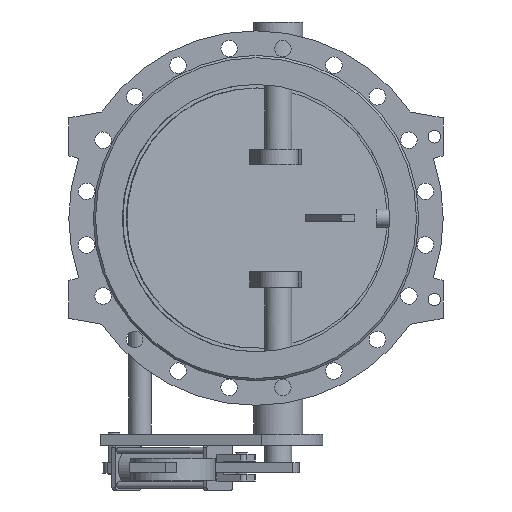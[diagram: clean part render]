
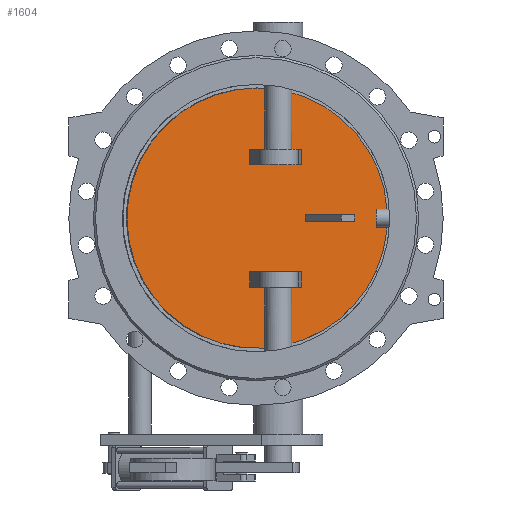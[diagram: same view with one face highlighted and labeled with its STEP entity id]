
A CAD part, front view. The second image highlights one B-rep face of the part: STEP entity #1604.
In plain terms, the highlighted planar face has unit normal (0.131, -0.991, 0).
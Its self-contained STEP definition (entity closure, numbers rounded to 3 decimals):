
#1604=ADVANCED_FACE('',(#3557,#3559,#3561,#3563),#3565,.T.);
#3557=FACE_BOUND('',#3558,.T.);
#3558=EDGE_LOOP('',(#4678));
#3559=FACE_BOUND('',#3560,.T.);
#3560=EDGE_LOOP('',(#4679,#4680,#4681,#4682));
#3561=FACE_BOUND('',#3562,.T.);
#3562=EDGE_LOOP('',(#4683,#4684,#4685,#4686));
#3563=FACE_BOUND('',#3564,.T.);
#3564=EDGE_LOOP('',(#4687,#4688,#4689,#4690));
#3565=PLANE('',#3566);
#3566=AXIS2_PLACEMENT_3D('',#3567,#3568,#3569);
#3567=CARTESIAN_POINT('',(-1.272,9.66,0.));
#3568=DIRECTION('',(0.131,-0.991,0.));
#3569=DIRECTION('',(0.,0.,-1.));
#4678=ORIENTED_EDGE('',*,*,#5177,.T.);
#4679=ORIENTED_EDGE('',*,*,#5194,.F.);
#4680=ORIENTED_EDGE('',*,*,#5195,.F.);
#4681=ORIENTED_EDGE('',*,*,#5196,.F.);
#4682=ORIENTED_EDGE('',*,*,#5197,.F.);
#4683=ORIENTED_EDGE('',*,*,#5198,.F.);
#4684=ORIENTED_EDGE('',*,*,#5199,.F.);
#4685=ORIENTED_EDGE('',*,*,#5200,.F.);
#4686=ORIENTED_EDGE('',*,*,#5201,.F.);
#4687=ORIENTED_EDGE('',*,*,#5202,.F.);
#4688=ORIENTED_EDGE('',*,*,#5203,.F.);
#4689=ORIENTED_EDGE('',*,*,#5204,.F.);
#4690=ORIENTED_EDGE('',*,*,#5205,.F.);
#5177=EDGE_CURVE('',#5917,#5917,#5918,.T.);
#5194=EDGE_CURVE('',#5951,#5952,#5953,.T.);
#5195=EDGE_CURVE('',#5954,#5951,#5955,.F.);
#5196=EDGE_CURVE('',#5956,#5954,#5957,.T.);
#5197=EDGE_CURVE('',#5952,#5956,#5958,.T.);
#5198=EDGE_CURVE('',#5959,#5960,#5961,.F.);
#5199=EDGE_CURVE('',#5962,#5959,#5963,.T.);
#5200=EDGE_CURVE('',#5964,#5962,#5965,.T.);
#5201=EDGE_CURVE('',#5960,#5964,#5966,.T.);
#5202=EDGE_CURVE('',#5967,#5968,#5969,.T.);
#5203=EDGE_CURVE('',#5970,#5967,#5971,.F.);
#5204=EDGE_CURVE('',#5972,#5970,#5973,.F.);
#5205=EDGE_CURVE('',#5968,#5972,#5974,.F.);
#5917=VERTEX_POINT('',#9005);
#5918=B_SPLINE_CURVE_WITH_KNOTS('',3,
(#9006,#9007,#9008,#9009,#9010,#9011,#9012,#9013,#9014,#9015,#9016,#9017,#9018,#9019,
#9020,#9021,#9022,#9023,#9024,#9025,#9026,#9027,#9028,#9029,#9030,#9031,#9032,#9033,
#9034,#9035,#9036,#9037,#9038,#9039,#9040,#9041,#9042,#9043,#9044,#9045,#9046,#9047,
#9048,#9049,#9050,#9051,#9052,#9053,#9054,#9055,#9056),
.UNSPECIFIED.,.T.,.F.,
(4,1,1,1,1,1,1,1,1,1,1,1,1,1,1,1,1,1,1,1,1,1,1,1,1,1,1,1,1,1,1,1,1,1,1,1,1,1,1,1,
1,1,1,1,1,1,1,1,4),
(0.,0.021,0.042,0.063,0.084,0.105,
0.126,0.147,0.168,0.189,0.211,
0.232,0.253,0.274,0.295,0.316,
0.337,0.358,0.379,0.4,0.421,
0.442,0.463,0.484,0.505,0.526,
0.548,0.569,0.59,0.611,0.632,
0.653,0.674,0.695,0.716,0.737,
0.758,0.779,0.8,0.821,0.842,
0.864,0.885,0.906,0.927,0.948,
0.969,0.986,1.),
.UNSPECIFIED.);
#5951=VERTEX_POINT('',#9637);
#5952=VERTEX_POINT('',#9638);
#5953=LINE('',#9639,#9640);
#5954=VERTEX_POINT('',#9642);
#5955=LINE('',#9643,#9644);
#5956=VERTEX_POINT('',#9646);
#5957=LINE('',#9647,#9648);
#5958=LINE('',#9650,#9651);
#5959=VERTEX_POINT('',#9653);
#5960=VERTEX_POINT('',#9654);
#5961=LINE('',#9655,#9656);
#5962=VERTEX_POINT('',#9658);
#5963=LINE('',#9659,#9660);
#5964=VERTEX_POINT('',#9662);
#5965=LINE('',#9663,#9664);
#5966=LINE('',#9666,#9667);
#5967=VERTEX_POINT('',#9669);
#5968=VERTEX_POINT('',#9670);
#5969=LINE('',#9671,#9672);
#5970=VERTEX_POINT('',#9674);
#5971=LINE('',#9675,#9676);
#5972=VERTEX_POINT('',#9678);
#5973=LINE('',#9679,#9680);
#5974=LINE('',#9682,#9683);
#9005=CARTESIAN_POINT('',(2.611,10.171,292.));
#9006=CARTESIAN_POINT('',(2.611,10.171,292.));
#9007=CARTESIAN_POINT('',(-10.219,8.482,292.));
#9008=CARTESIAN_POINT('',(-35.91,5.1,290.305));
#9009=CARTESIAN_POINT('',(-73.825,0.108,282.707));
#9010=CARTESIAN_POINT('',(-110.459,-4.715,270.157));
#9011=CARTESIAN_POINT('',(-145.138,-9.28,252.871));
#9012=CARTESIAN_POINT('',(-177.225,-13.505,231.166));
#9013=CARTESIAN_POINT('',(-206.166,-17.315,205.416));
#9014=CARTESIAN_POINT('',(-231.455,-20.644,176.075));
#9015=CARTESIAN_POINT('',(-252.648,-23.434,143.655));
#9016=CARTESIAN_POINT('',(-269.377,-25.637,108.723));
#9017=CARTESIAN_POINT('',(-281.348,-27.213,71.891));
#9018=CARTESIAN_POINT('',(-288.354,-28.135,33.802));
#9019=CARTESIAN_POINT('',(-290.271,-28.387,-4.878));
#9020=CARTESIAN_POINT('',(-287.066,-27.966,-43.472));
#9021=CARTESIAN_POINT('',(-278.796,-26.877,-81.306));
#9022=CARTESIAN_POINT('',(-265.604,-25.14,-117.719));
#9023=CARTESIAN_POINT('',(-247.722,-22.786,-152.073));
#9024=CARTESIAN_POINT('',(-225.461,-19.855,-183.769));
#9025=CARTESIAN_POINT('',(-199.21,-16.399,-212.252));
#9026=CARTESIAN_POINT('',(-169.427,-12.478,-237.024));
#9027=CARTESIAN_POINT('',(-136.633,-8.161,-257.651));
#9028=CARTESIAN_POINT('',(-101.401,-3.522,-273.77));
#9029=CARTESIAN_POINT('',(-64.347,1.356,-285.1));
#9030=CARTESIAN_POINT('',(-26.121,6.389,-291.442));
#9031=CARTESIAN_POINT('',(12.609,11.487,-292.683));
#9032=CARTESIAN_POINT('',(51.163,16.563,-288.803));
#9033=CARTESIAN_POINT('',(88.867,21.527,-279.869));
#9034=CARTESIAN_POINT('',(125.06,26.292,-266.039));
#9035=CARTESIAN_POINT('',(159.11,30.775,-247.554));
#9036=CARTESIAN_POINT('',(190.419,34.897,-224.739));
#9037=CARTESIAN_POINT('',(218.442,38.586,-197.994));
#9038=CARTESIAN_POINT('',(242.689,41.778,-167.787));
#9039=CARTESIAN_POINT('',(262.736,44.417,-134.647));
#9040=CARTESIAN_POINT('',(278.233,46.457,-99.152));
#9041=CARTESIAN_POINT('',(288.909,47.863,-61.924));
#9042=CARTESIAN_POINT('',(294.579,48.609,-23.614));
#9043=CARTESIAN_POINT('',(295.143,48.684,15.109));
#9044=CARTESIAN_POINT('',(290.591,48.084,53.568));
#9045=CARTESIAN_POINT('',(281.003,46.822,91.09));
#9046=CARTESIAN_POINT('',(266.546,44.919,127.019));
#9047=CARTESIAN_POINT('',(247.473,42.408,160.728));
#9048=CARTESIAN_POINT('',(224.118,39.333,191.627));
#9049=CARTESIAN_POINT('',(196.885,35.748,219.177));
#9050=CARTESIAN_POINT('',(166.261,31.716,242.887));
#9051=CARTESIAN_POINT('',(132.817,27.313,262.327));
#9052=CARTESIAN_POINT('',(97.037,22.603,277.222));
#9053=CARTESIAN_POINT('',(61.749,17.957,286.686));
#9054=CARTESIAN_POINT('',(30.023,13.78,291.181));
#9055=CARTESIAN_POINT('',(10.989,11.274,292.));
#9056=CARTESIAN_POINT('',(2.611,10.171,292.));
#9637=CARTESIAN_POINT('',(204.187,36.709,-7.5));
#9638=CARTESIAN_POINT('',(204.187,36.709,7.5));
#9639=CARTESIAN_POINT('',(204.187,36.709,-7.5));
#9640=VECTOR('',#9641,1.);
#9641=DIRECTION('',(0.,0.,1.));
#9642=CARTESIAN_POINT('',(110.,24.309,-7.5));
#9643=CARTESIAN_POINT('',(204.187,36.709,-7.5));
#9644=VECTOR('',#9645,1.);
#9645=DIRECTION('',(-0.991,-0.131,0.));
#9646=CARTESIAN_POINT('',(110.,24.309,7.5));
#9647=CARTESIAN_POINT('',(110.,24.309,7.5));
#9648=VECTOR('',#9649,1.);
#9649=DIRECTION('',(0.,0.,-1.));
#9650=CARTESIAN_POINT('',(204.187,36.709,7.5));
#9651=VECTOR('',#9652,1.);
#9652=DIRECTION('',(-0.991,-0.131,0.));
#9653=CARTESIAN_POINT('',(-14.418,7.929,-155.));
#9654=CARTESIAN_POINT('',(102.407,23.31,-155.));
#9655=CARTESIAN_POINT('',(102.407,23.31,-155.));
#9656=VECTOR('',#9657,1.);
#9657=DIRECTION('',(-0.991,-0.131,0.));
#9658=CARTESIAN_POINT('',(-14.418,7.929,-120.));
#9659=CARTESIAN_POINT('',(-14.418,7.929,-120.));
#9660=VECTOR('',#9661,1.);
#9661=DIRECTION('',(0.,0.,-1.));
#9662=CARTESIAN_POINT('',(102.407,23.31,-120.));
#9663=CARTESIAN_POINT('',(102.407,23.31,-120.));
#9664=VECTOR('',#9665,1.);
#9665=DIRECTION('',(-0.991,-0.131,0.));
#9666=CARTESIAN_POINT('',(102.407,23.31,-155.));
#9667=VECTOR('',#9668,1.);
#9668=DIRECTION('',(0.,0.,1.));
#9669=CARTESIAN_POINT('',(102.407,23.31,155.));
#9670=CARTESIAN_POINT('',(-14.418,7.929,155.));
#9671=CARTESIAN_POINT('',(102.407,23.31,155.));
#9672=VECTOR('',#9673,1.);
#9673=DIRECTION('',(-0.991,-0.131,0.));
#9674=CARTESIAN_POINT('',(102.407,23.31,120.));
#9675=CARTESIAN_POINT('',(102.407,23.31,155.));
#9676=VECTOR('',#9677,1.);
#9677=DIRECTION('',(0.,0.,-1.));
#9678=CARTESIAN_POINT('',(-14.418,7.929,120.));
#9679=CARTESIAN_POINT('',(102.407,23.31,120.));
#9680=VECTOR('',#9681,1.);
#9681=DIRECTION('',(-0.991,-0.131,0.));
#9682=CARTESIAN_POINT('',(-14.418,7.929,120.));
#9683=VECTOR('',#9684,1.);
#9684=DIRECTION('',(0.,0.,1.));
